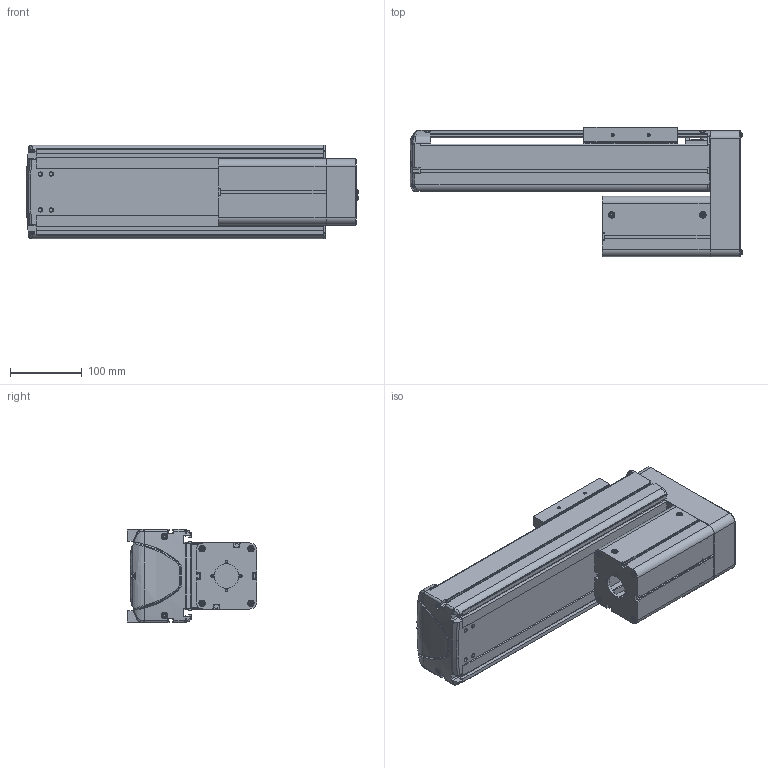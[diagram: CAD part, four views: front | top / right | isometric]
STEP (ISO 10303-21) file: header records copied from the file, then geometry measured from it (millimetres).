
FILE_DESCRIPTION((''),'2;1');
FILE_NAME('BE30E-UU-M_N-20_IGS_PRT','2017-06-17T',(' '),(''),'PRO/ENGINEER BY PARAMETRIC TECHNOLOGY CORPORATION, 2015030','PRO/ENGINEER BY PARAMETRIC TECHNOLOGY CORPORATION, 2015030','');
FILE_SCHEMA(('CONFIG_CONTROL_DESIGN'));
Length unit declared in the file: millimetre
Products named in the file (1): BE30E-UU-M_N-20_IGS_PRT
Bounding box: 461.9 x 180 x 130 mm (x, y, z)
Volume: 1879845.2 mm3; surface area: 840055.8 mm2
Topology: 2 solids, 101 shells, 1950 faces, 5232 edges, 3386 vertices
Faces by surface type: plane 985, cylinder 765, cone 107, torus 39, bspline 30, sphere 24
Entity records: 62927 total; most frequent: CARTESIAN_POINT 13322, DIRECTION 10477, ORIENTED_EDGE 10008, EDGE_CURVE 5194, AXIS2_PLACEMENT_3D 3651, VERTEX_POINT 3386, VECTOR 3175, LINE 3175
